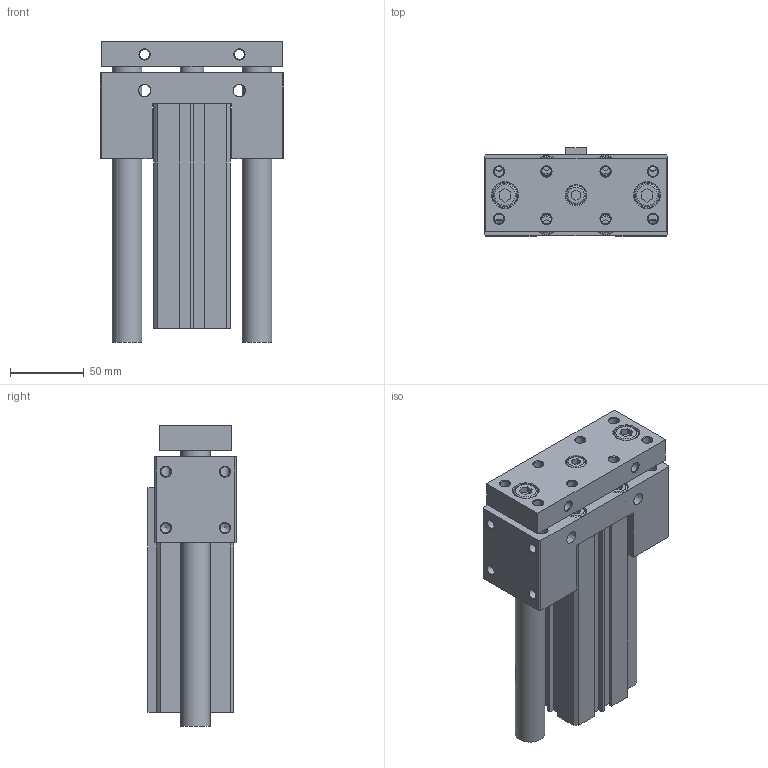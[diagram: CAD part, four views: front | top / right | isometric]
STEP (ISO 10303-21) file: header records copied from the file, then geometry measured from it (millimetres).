
FILE_DESCRIPTION((''),'2;1');
FILE_NAME('I:\3D電子目錄\氣缸\JCB\JCB\JCB40\JCB40x125.stp','2007-08-23T20:11:21',('Administrator'),(''),'Autodesk Inventor 11','Autodesk Inventor 11','');
FILE_SCHEMA(('AUTOMOTIVE_DESIGN { 1 0 10303 214 1 1 1 1 }'));
Length unit declared in the file: millimetre
Products named in the file (1): JCB40
Bounding box: 124 x 59.5 x 203 mm (x, y, z)
Volume: 794402 mm3; surface area: 161460.1 mm2
Topology: 3 solids, 3 shells, 303 faces, 731 edges, 473 vertices
Faces by surface type: plane 163, cylinder 52, cone 47, bspline 33, torus 8
Full cylindrical faces by diameter (mm): 2.2 x2, 6.647 x4, 6.8 x4, 10 x8, 13 x5, 14 x5, 16 x3, 17 x1, 17.5 x2, 20 x2, 23 x2, 28 x1, 29 x1, 42 x4, 44.5 x2
Entity records: 8528 total; most frequent: CARTESIAN_POINT 2090, DIRECTION 1302, ORIENTED_EDGE 1114, EDGE_CURVE 557, EDGE_LOOP 522, AXIS2_PLACEMENT_3D 480, VERTEX_POINT 435, VECTOR 342
